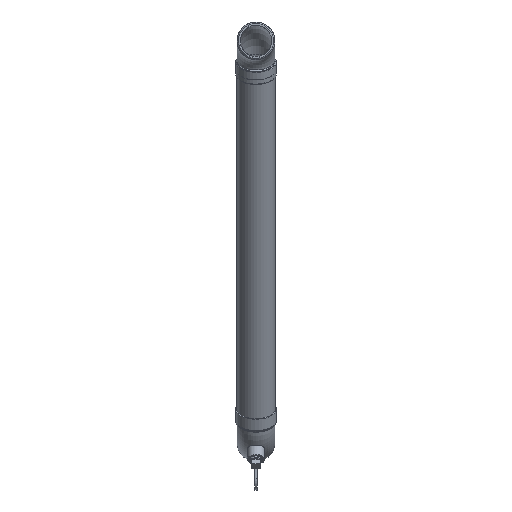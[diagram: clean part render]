
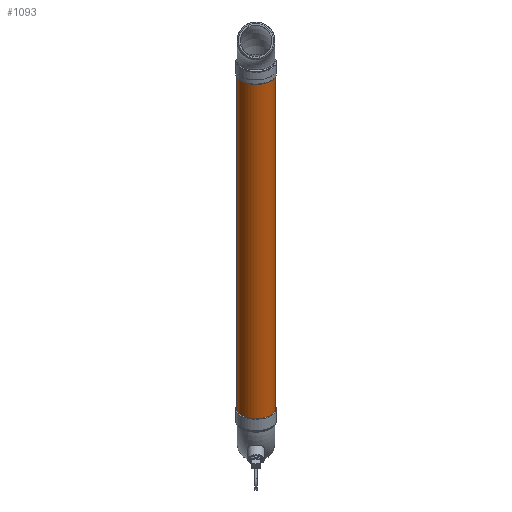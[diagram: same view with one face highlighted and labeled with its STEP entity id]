
A CAD part, front view. The second image highlights one B-rep face of the part: STEP entity #1093.
In plain terms, the highlighted cylindrical face has radius 21.387 mm (diameter 42.774 mm), a full revolution.
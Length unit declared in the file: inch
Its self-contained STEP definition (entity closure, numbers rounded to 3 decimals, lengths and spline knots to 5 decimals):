
#95=CYLINDRICAL_SURFACE('',#1258,0.842);
#218=FACE_BOUND('',#447,.T.);
#299=FACE_OUTER_BOUND('',#446,.T.);
#446=EDGE_LOOP('',(#917));
#447=EDGE_LOOP('',(#918));
#521=CIRCLE('',#1259,0.842);
#522=CIRCLE('',#1260,0.842);
#612=VERTEX_POINT('',#1957);
#613=VERTEX_POINT('',#1959);
#715=EDGE_CURVE('',#612,#612,#521,.T.);
#716=EDGE_CURVE('',#613,#613,#522,.T.);
#917=ORIENTED_EDGE('',*,*,#715,.T.);
#918=ORIENTED_EDGE('',*,*,#716,.F.);
#1093=ADVANCED_FACE('',(#299,#218),#95,.T.);
#1258=AXIS2_PLACEMENT_3D('',#1956,#1581,#1582);
#1259=AXIS2_PLACEMENT_3D('',#1958,#1583,#1584);
#1260=AXIS2_PLACEMENT_3D('',#1960,#1585,#1586);
#1581=DIRECTION('center_axis',(0.,-0.5,
0.866));
#1582=DIRECTION('ref_axis',(-0.811,0.507,0.293));
#1583=DIRECTION('center_axis',(0.,0.5,-0.866));
#1584=DIRECTION('ref_axis',(-0.811,0.507,0.293));
#1585=DIRECTION('center_axis',(0.,0.5,-0.866));
#1586=DIRECTION('ref_axis',(-0.811,0.507,0.293));
#1956=CARTESIAN_POINT('Origin',(0.,-1.6238,
-16.7325));
#1957=CARTESIAN_POINT('',(0.68279,-10.961,-1.54542));
#1958=CARTESIAN_POINT('Origin',(0.,-10.5343,
-1.29906));
#1959=CARTESIAN_POINT('',(0.68279,-2.0505,-16.97886));
#1960=CARTESIAN_POINT('Origin',(0.,-1.6238,
-16.7325));
